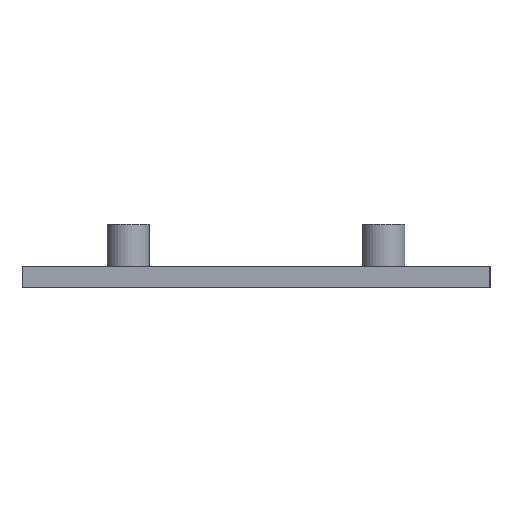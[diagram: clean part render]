
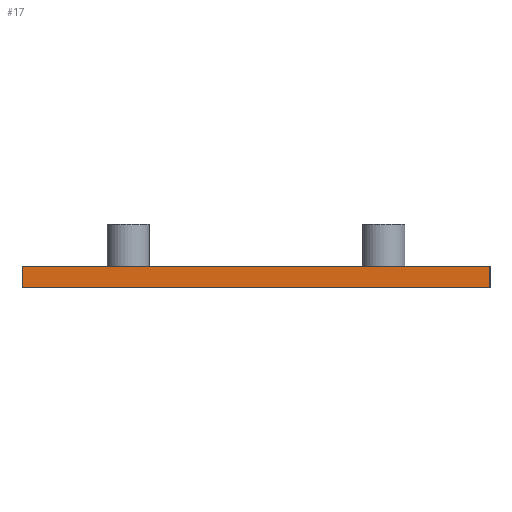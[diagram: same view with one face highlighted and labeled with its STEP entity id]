
A CAD part, left-side view. The second image highlights one B-rep face of the part: STEP entity #17.
In plain terms, the highlighted planar face has unit normal (-1, 0, 0).
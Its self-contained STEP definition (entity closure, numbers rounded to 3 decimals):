
#17 = ADVANCED_FACE('',(#18),#32,.F.);
#18 = FACE_BOUND('',#19,.F.);
#19 = EDGE_LOOP('',(#20,#55,#83,#111));
#20 = ORIENTED_EDGE('',*,*,#21,.F.);
#21 = EDGE_CURVE('',#22,#24,#26,.T.);
#22 = VERTEX_POINT('',#23);
#23 = CARTESIAN_POINT('',(-50.,-44.,0.));
#24 = VERTEX_POINT('',#25);
#25 = CARTESIAN_POINT('',(-50.,-44.,4.));
#26 = SURFACE_CURVE('',#27,(#31,#43),.PCURVE_S1.);
#27 = LINE('',#28,#29);
#28 = CARTESIAN_POINT('',(-50.,-44.,0.));
#29 = VECTOR('',#30,1.);
#30 = DIRECTION('',(0.,0.,1.));
#31 = PCURVE('',#32,#37);
#32 = PLANE('',#33);
#33 = AXIS2_PLACEMENT_3D('',#34,#35,#36);
#34 = CARTESIAN_POINT('',(-50.,-44.,0.));
#35 = DIRECTION('',(1.,0.,-0.));
#36 = DIRECTION('',(0.,0.,1.));
#37 = DEFINITIONAL_REPRESENTATION('',(#38),#42);
#38 = LINE('',#39,#40);
#39 = CARTESIAN_POINT('',(0.,0.));
#40 = VECTOR('',#41,1.);
#41 = DIRECTION('',(1.,0.));
#42 = ( GEOMETRIC_REPRESENTATION_CONTEXT(2) 
PARAMETRIC_REPRESENTATION_CONTEXT() REPRESENTATION_CONTEXT('2D SPACE',''
  ) );
#43 = PCURVE('',#44,#49);
#44 = PLANE('',#45);
#45 = AXIS2_PLACEMENT_3D('',#46,#47,#48);
#46 = CARTESIAN_POINT('',(-50.,-44.,0.));
#47 = DIRECTION('',(-0.,1.,0.));
#48 = DIRECTION('',(0.,0.,1.));
#49 = DEFINITIONAL_REPRESENTATION('',(#50),#54);
#50 = LINE('',#51,#52);
#51 = CARTESIAN_POINT('',(0.,0.));
#52 = VECTOR('',#53,1.);
#53 = DIRECTION('',(1.,0.));
#54 = ( GEOMETRIC_REPRESENTATION_CONTEXT(2) 
PARAMETRIC_REPRESENTATION_CONTEXT() REPRESENTATION_CONTEXT('2D SPACE',''
  ) );
#55 = ORIENTED_EDGE('',*,*,#56,.T.);
#56 = EDGE_CURVE('',#22,#57,#59,.T.);
#57 = VERTEX_POINT('',#58);
#58 = CARTESIAN_POINT('',(-50.,44.,0.));
#59 = SURFACE_CURVE('',#60,(#64,#71),.PCURVE_S1.);
#60 = LINE('',#61,#62);
#61 = CARTESIAN_POINT('',(-50.,-44.,0.));
#62 = VECTOR('',#63,1.);
#63 = DIRECTION('',(-0.,1.,0.));
#64 = PCURVE('',#32,#65);
#65 = DEFINITIONAL_REPRESENTATION('',(#66),#70);
#66 = LINE('',#67,#68);
#67 = CARTESIAN_POINT('',(0.,0.));
#68 = VECTOR('',#69,1.);
#69 = DIRECTION('',(0.,-1.));
#70 = ( GEOMETRIC_REPRESENTATION_CONTEXT(2) 
PARAMETRIC_REPRESENTATION_CONTEXT() REPRESENTATION_CONTEXT('2D SPACE',''
  ) );
#71 = PCURVE('',#72,#77);
#72 = PLANE('',#73);
#73 = AXIS2_PLACEMENT_3D('',#74,#75,#76);
#74 = CARTESIAN_POINT('',(-50.,-44.,0.));
#75 = DIRECTION('',(0.,0.,1.));
#76 = DIRECTION('',(1.,0.,-0.));
#77 = DEFINITIONAL_REPRESENTATION('',(#78),#82);
#78 = LINE('',#79,#80);
#79 = CARTESIAN_POINT('',(0.,0.));
#80 = VECTOR('',#81,1.);
#81 = DIRECTION('',(0.,1.));
#82 = ( GEOMETRIC_REPRESENTATION_CONTEXT(2) 
PARAMETRIC_REPRESENTATION_CONTEXT() REPRESENTATION_CONTEXT('2D SPACE',''
  ) );
#83 = ORIENTED_EDGE('',*,*,#84,.T.);
#84 = EDGE_CURVE('',#57,#85,#87,.T.);
#85 = VERTEX_POINT('',#86);
#86 = CARTESIAN_POINT('',(-50.,44.,4.));
#87 = SURFACE_CURVE('',#88,(#92,#99),.PCURVE_S1.);
#88 = LINE('',#89,#90);
#89 = CARTESIAN_POINT('',(-50.,44.,0.));
#90 = VECTOR('',#91,1.);
#91 = DIRECTION('',(0.,0.,1.));
#92 = PCURVE('',#32,#93);
#93 = DEFINITIONAL_REPRESENTATION('',(#94),#98);
#94 = LINE('',#95,#96);
#95 = CARTESIAN_POINT('',(0.,-88.));
#96 = VECTOR('',#97,1.);
#97 = DIRECTION('',(1.,0.));
#98 = ( GEOMETRIC_REPRESENTATION_CONTEXT(2) 
PARAMETRIC_REPRESENTATION_CONTEXT() REPRESENTATION_CONTEXT('2D SPACE',''
  ) );
#99 = PCURVE('',#100,#105);
#100 = PLANE('',#101);
#101 = AXIS2_PLACEMENT_3D('',#102,#103,#104);
#102 = CARTESIAN_POINT('',(-50.,44.,0.));
#103 = DIRECTION('',(-0.,1.,0.));
#104 = DIRECTION('',(0.,0.,1.));
#105 = DEFINITIONAL_REPRESENTATION('',(#106),#110);
#106 = LINE('',#107,#108);
#107 = CARTESIAN_POINT('',(0.,0.));
#108 = VECTOR('',#109,1.);
#109 = DIRECTION('',(1.,0.));
#110 = ( GEOMETRIC_REPRESENTATION_CONTEXT(2) 
PARAMETRIC_REPRESENTATION_CONTEXT() REPRESENTATION_CONTEXT('2D SPACE',''
  ) );
#111 = ORIENTED_EDGE('',*,*,#112,.F.);
#112 = EDGE_CURVE('',#24,#85,#113,.T.);
#113 = SURFACE_CURVE('',#114,(#118,#125),.PCURVE_S1.);
#114 = LINE('',#115,#116);
#115 = CARTESIAN_POINT('',(-50.,-44.,4.));
#116 = VECTOR('',#117,1.);
#117 = DIRECTION('',(-0.,1.,0.));
#118 = PCURVE('',#32,#119);
#119 = DEFINITIONAL_REPRESENTATION('',(#120),#124);
#120 = LINE('',#121,#122);
#121 = CARTESIAN_POINT('',(4.,0.));
#122 = VECTOR('',#123,1.);
#123 = DIRECTION('',(0.,-1.));
#124 = ( GEOMETRIC_REPRESENTATION_CONTEXT(2) 
PARAMETRIC_REPRESENTATION_CONTEXT() REPRESENTATION_CONTEXT('2D SPACE',''
  ) );
#125 = PCURVE('',#126,#131);
#126 = PLANE('',#127);
#127 = AXIS2_PLACEMENT_3D('',#128,#129,#130);
#128 = CARTESIAN_POINT('',(-50.,-44.,4.));
#129 = DIRECTION('',(0.,0.,1.));
#130 = DIRECTION('',(1.,0.,-0.));
#131 = DEFINITIONAL_REPRESENTATION('',(#132),#136);
#132 = LINE('',#133,#134);
#133 = CARTESIAN_POINT('',(0.,0.));
#134 = VECTOR('',#135,1.);
#135 = DIRECTION('',(0.,1.));
#136 = ( GEOMETRIC_REPRESENTATION_CONTEXT(2) 
PARAMETRIC_REPRESENTATION_CONTEXT() REPRESENTATION_CONTEXT('2D SPACE',''
  ) );
